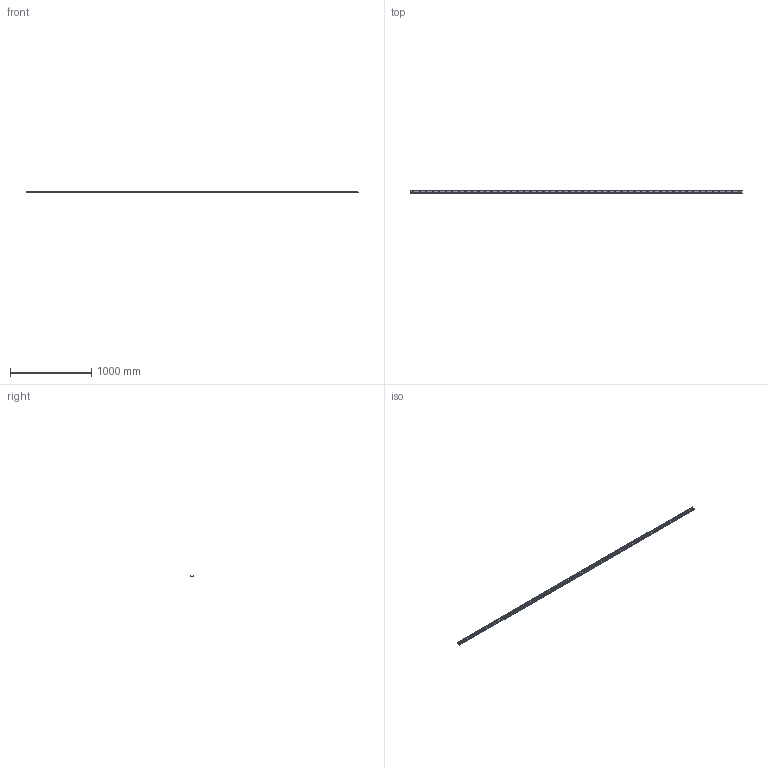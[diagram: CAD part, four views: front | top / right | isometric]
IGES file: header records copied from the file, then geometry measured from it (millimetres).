
Start section: SolidWorks IGES file using analytic representation for surfaces
Global section: file name: C:\Users\IanO\Desktop\43\L1943.ULV43_v2_20180121_IGES\L1943.ULV43-4080.igs; native system: SolidWorks 2017; preprocessor: SolidWorks 2017; author: IanO; date: 190121.090738; units: millimetre
Bounding box: 4080 x 43 x 21 mm (x, y, z)
Surface area: 632802.6 mm2 (no closed solid volume)
Topology: 0 solids, 0 shells, 230 faces, 4374 edges, 4374 vertices
Faces by surface type: revolution 217, bspline 13
